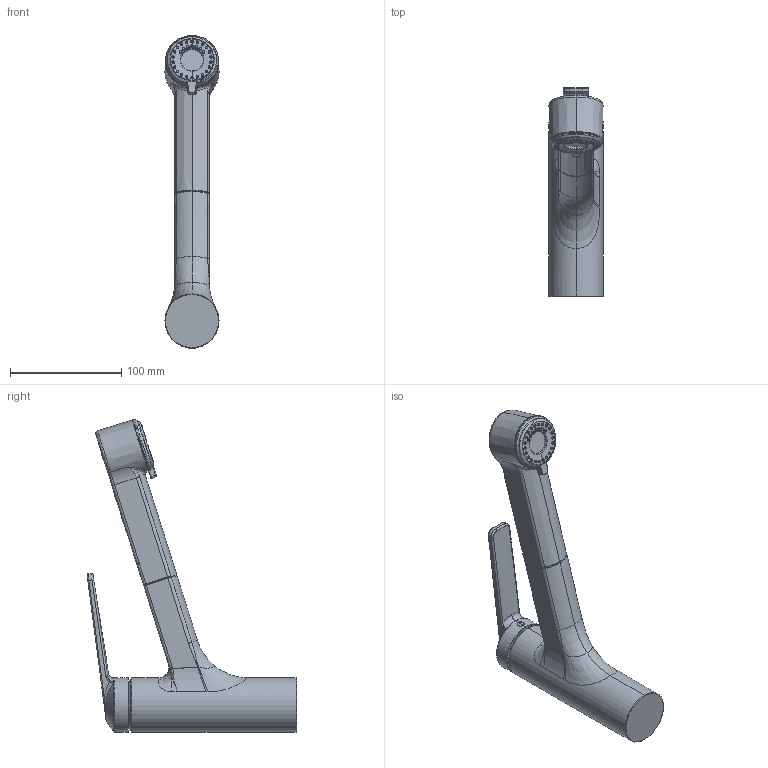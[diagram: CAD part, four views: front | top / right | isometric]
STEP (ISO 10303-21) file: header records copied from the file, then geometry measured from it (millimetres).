
FILE_DESCRIPTION((''),'2;1');
FILE_NAME('DOMO_KURZ_SW0002','2022-01-17T13:01:33',('KS894'),(''),'CREO PARAMETRIC BY PTC INC, 2018500','CREO PARAMETRIC BY PTC INC, 2018500','');
FILE_SCHEMA(('CONFIG_CONTROL_DESIGN'));
Length unit declared in the file: millimetre
Products named in the file (1): DOMO_KURZ_SW0002
Bounding box: 48.57 x 187.64 x 280.68 mm (x, y, z)
Volume: 579758.3 mm3; surface area: 65685.9 mm2
Topology: 1 solids, 1 shells, 523 faces, 1193 edges, 720 vertices
Faces by surface type: bspline 159, torus 90, cylinder 80, plane 78, cone 69, sphere 39, extrusion 8
Entity records: 30817 total; most frequent: CARTESIAN_POINT 20294, ORIENTED_EDGE 2360, DIRECTION 1881, EDGE_CURVE 1180, AXIS2_PLACEMENT_3D 829, VERTEX_POINT 720, EDGE_LOOP 584, FACE_OUTER_BOUND 523
